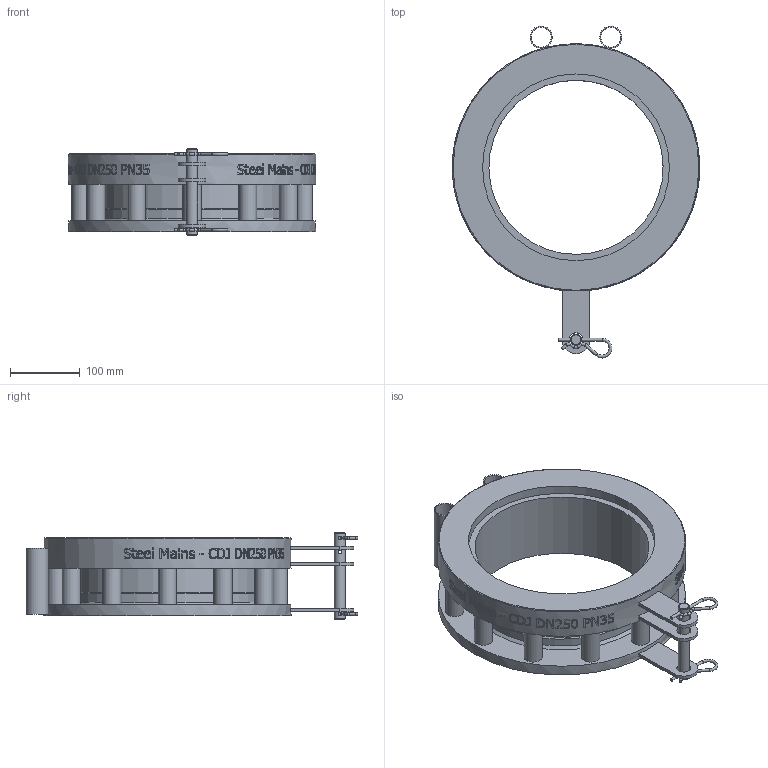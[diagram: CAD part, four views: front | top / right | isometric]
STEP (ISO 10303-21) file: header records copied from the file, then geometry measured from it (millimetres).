
FILE_DESCRIPTION(/* description */ (''),/* implementation_level */ '2;1');
FILE_NAME(/* name */ 'C:\Vault\Designs\Somerton\196\196-31 Models\Marketing Files\SteelMains - CDJ DN250 PN35 - (196-31T rev B).stp',/* time_stamp */ '2025-09-25T16:18:08+10:00',/* author */ ('Sam.Cavallaro'),/* organization */ (''),/* preprocessor_version */ 'ST-DEVELOPER v18.1',/* originating_system */ 'Autodesk Inventor 2021',/* authorisation */ '');
FILE_SCHEMA (('AUTOMOTIVE_DESIGN { 1 0 10303 214 3 1 1 }'));
Length unit declared in the file: millimetre
Products named in the file (1): SPS_ENG-084772
Bounding box: 355 x 476.35 x 125 mm (x, y, z)
Volume: 3599691.8 mm3; surface area: 494452.6 mm2
Topology: 6 solids, 6 shells, 851 faces, 2329 edges, 1554 vertices
Faces by surface type: bspline 412, plane 319, cylinder 107, torus 8, cone 5
Full cylindrical faces by diameter (mm): 4 x10, 5 x3, 16 x1, 20 x3, 26 x12, 28.8 x2, 32 x2, 250 x1, 262 x1, 266 x1, 268 x1, 355 x1
Entity records: 37798 total; most frequent: CARTESIAN_POINT 18368, ORIENTED_EDGE 4664, DIRECTION 2769, EDGE_CURVE 2332, VERTEX_POINT 1557, LINE 1083, VECTOR 1083, EDGE_LOOP 957
